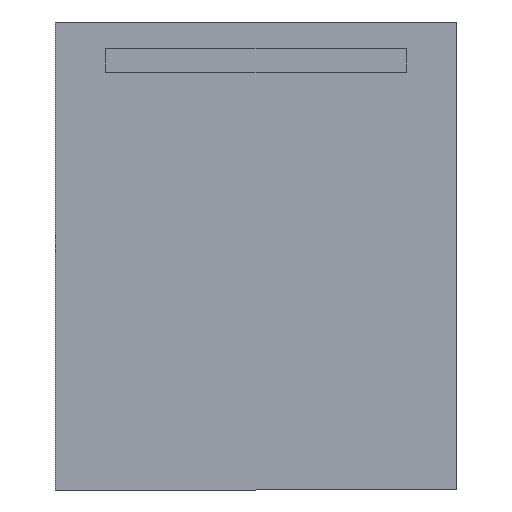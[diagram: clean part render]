
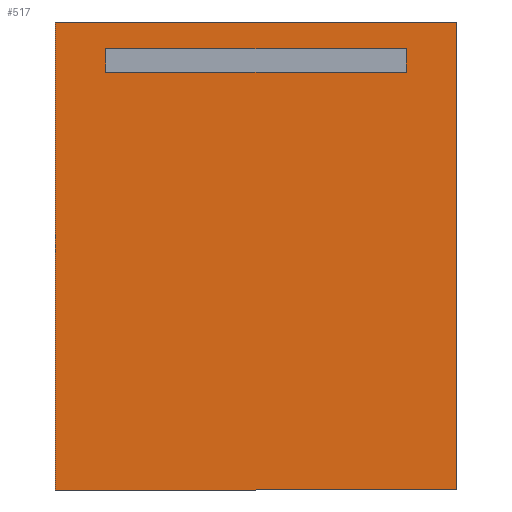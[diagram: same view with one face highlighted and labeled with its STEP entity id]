
A CAD part, front view. The second image highlights one B-rep face of the part: STEP entity #517.
In plain terms, the highlighted planar face has unit normal (0, -1, 0).
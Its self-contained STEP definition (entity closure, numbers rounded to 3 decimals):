
#47=FACE_BOUND('',#92,.T.);
#62=FACE_OUTER_BOUND('',#91,.T.);
#91=EDGE_LOOP('',(#359,#360,#361,#362));
#92=EDGE_LOOP('',(#363,#364,#365,#366));
#115=LINE('',#766,#159);
#119=LINE('',#774,#163);
#122=LINE('',#780,#166);
#125=LINE('',#785,#169);
#127=LINE('',#791,#171);
#131=LINE('',#799,#175);
#134=LINE('',#805,#178);
#137=LINE('',#810,#181);
#159=VECTOR('',#614,10.);
#163=VECTOR('',#620,10.);
#166=VECTOR('',#625,10.);
#169=VECTOR('',#630,10.);
#171=VECTOR('',#636,10.);
#175=VECTOR('',#642,10.);
#178=VECTOR('',#647,10.);
#181=VECTOR('',#652,10.);
#203=VERTEX_POINT('',#764);
#204=VERTEX_POINT('',#765);
#207=VERTEX_POINT('',#773);
#209=VERTEX_POINT('',#779);
#211=VERTEX_POINT('',#789);
#212=VERTEX_POINT('',#790);
#215=VERTEX_POINT('',#798);
#217=VERTEX_POINT('',#804);
#251=EDGE_CURVE('',#203,#204,#115,.T.);
#255=EDGE_CURVE('',#207,#203,#119,.T.);
#258=EDGE_CURVE('',#209,#207,#122,.T.);
#261=EDGE_CURVE('',#204,#209,#125,.T.);
#263=EDGE_CURVE('',#211,#212,#127,.T.);
#267=EDGE_CURVE('',#215,#211,#131,.T.);
#270=EDGE_CURVE('',#217,#215,#134,.T.);
#273=EDGE_CURVE('',#212,#217,#137,.T.);
#359=ORIENTED_EDGE('',*,*,#273,.F.);
#360=ORIENTED_EDGE('',*,*,#263,.F.);
#361=ORIENTED_EDGE('',*,*,#267,.F.);
#362=ORIENTED_EDGE('',*,*,#270,.F.);
#363=ORIENTED_EDGE('',*,*,#251,.T.);
#364=ORIENTED_EDGE('',*,*,#261,.T.);
#365=ORIENTED_EDGE('',*,*,#258,.T.);
#366=ORIENTED_EDGE('',*,*,#255,.T.);
#465=PLANE('',#567);
#517=ADVANCED_FACE('',(#62,#47),#465,.F.);
#567=AXIS2_PLACEMENT_3D('',#813,#656,#657);
#614=DIRECTION('',(0.,0.,-1.));
#620=DIRECTION('',(1.,0.,0.));
#625=DIRECTION('',(0.,0.,1.));
#630=DIRECTION('',(-1.,0.,0.));
#636=DIRECTION('',(0.,0.,1.));
#642=DIRECTION('',(-1.,0.,0.));
#647=DIRECTION('',(0.,0.,-1.));
#652=DIRECTION('',(1.,0.,0.));
#656=DIRECTION('center_axis',(0.,1.,0.));
#657=DIRECTION('ref_axis',(0.,0.,1.));
#764=CARTESIAN_POINT('',(225.,-26.,660.));
#765=CARTESIAN_POINT('',(225.,-26.,625.));
#766=CARTESIAN_POINT('',(225.,-26.,505.));
#773=CARTESIAN_POINT('',(-225.,-26.,660.));
#774=CARTESIAN_POINT('',(-112.5,-26.,660.));
#779=CARTESIAN_POINT('',(-225.,-26.,625.));
#780=CARTESIAN_POINT('',(-225.,-26.,487.5));
#785=CARTESIAN_POINT('',(112.5,-26.,625.));
#789=CARTESIAN_POINT('',(-300.,-26.,0.));
#790=CARTESIAN_POINT('',(-300.,-26.,700.));
#791=CARTESIAN_POINT('',(-300.,-26.,0.));
#798=CARTESIAN_POINT('',(300.,-26.,0.));
#799=CARTESIAN_POINT('',(300.,-26.,0.));
#804=CARTESIAN_POINT('',(300.,-26.,700.));
#805=CARTESIAN_POINT('',(300.,-26.,700.));
#810=CARTESIAN_POINT('',(-300.,-26.,700.));
#813=CARTESIAN_POINT('Origin',(0.,-26.,350.));
